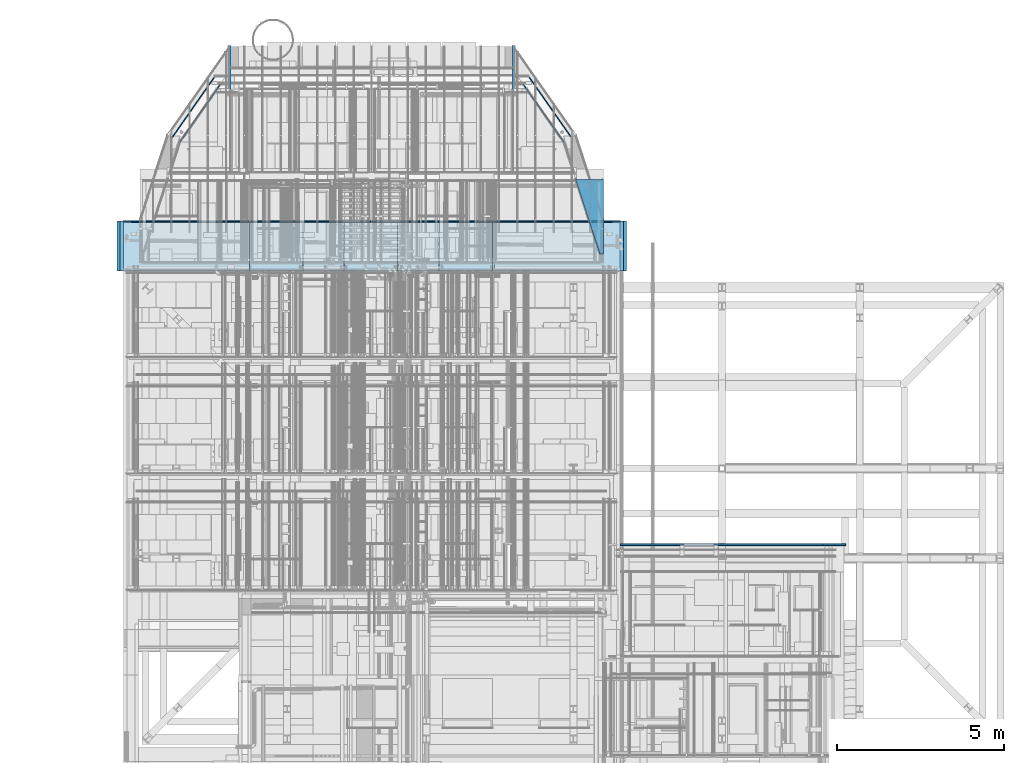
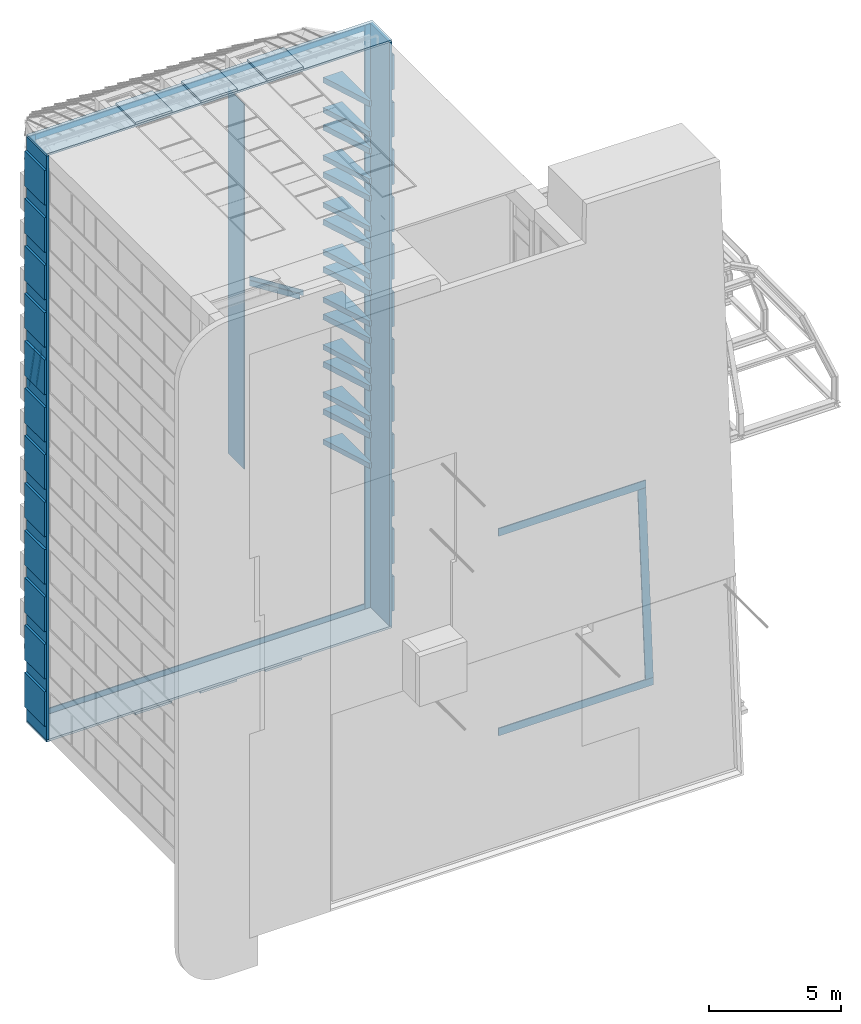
# One storey, part 34 of 583: 47 roofs, 16 walls.
"""IFC2X3 building model written with IfcOpenShell, lengths in metres."""

from ifc_helpers import new_model, entity, si_unit, converted_unit, derived_unit, money_unit, direction, frame, frame_2d, origin_with_axes, place, context, subcontext, project, spatial, rectangle, extrude, faceted_brep, material, type_object, element, save


model = new_model("IFC2X3")

# Units and contexts
model_context = context("Model", 3, precision=1e-05, world=origin_with_axes(), true_north=direction((0.0, 1.0)))
body_context = subcontext(model_context, "Body", "Model", "MODEL_VIEW", scale=1.0)
ifc_project = project(units=[si_unit("LENGTHUNIT", "METRE"), si_unit("AREAUNIT", "SQUARE_METRE"), si_unit("VOLUMEUNIT", "CUBIC_METRE"), si_unit("ABSORBEDDOSEUNIT", "GRAY"), si_unit("AMOUNTOFSUBSTANCEUNIT", "MOLE"), si_unit("DOSEEQUIVALENTUNIT", "SIEVERT"), si_unit("ELECTRICCAPACITANCEUNIT", "FARAD"), si_unit("ELECTRICCHARGEUNIT", "COULOMB"), si_unit("ELECTRICCONDUCTANCEUNIT", "SIEMENS"), si_unit("ELECTRICCURRENTUNIT", "AMPERE"), si_unit("ELECTRICRESISTANCEUNIT", "OHM"), si_unit("ELECTRICVOLTAGEUNIT", "VOLT"), si_unit("ENERGYUNIT", "JOULE"), si_unit("FORCEUNIT", "NEWTON"), si_unit("FREQUENCYUNIT", "HERTZ"), si_unit("ILLUMINANCEUNIT", "LUX"), si_unit("INDUCTANCEUNIT", "HENRY"), si_unit("LUMINOUSFLUXUNIT", "LUMEN"), si_unit("LUMINOUSINTENSITYUNIT", "CANDELA"), si_unit("MAGNETICFLUXDENSITYUNIT", "TESLA"), si_unit("MAGNETICFLUXUNIT", "WEBER"), si_unit("MASSUNIT", "GRAM"), converted_unit("PLANEANGLEUNIT", "degree", entity("IfcReal", 0.0174532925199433), si_unit("PLANEANGLEUNIT", "RADIAN"), dimensions=[0, 0, 0, 0, 0, 0, 0]), si_unit("POWERUNIT", "WATT"), si_unit("PRESSUREUNIT", "PASCAL"), si_unit("RADIOACTIVITYUNIT", "BECQUEREL"), si_unit("SOLIDANGLEUNIT", "STERADIAN"), si_unit("THERMODYNAMICTEMPERATUREUNIT", "KELVIN"), si_unit("TIMEUNIT", "SECOND"), derived_unit("ACCELERATIONUNIT", [(si_unit("LENGTHUNIT", "METRE"), 1), (si_unit("TIMEUNIT", "SECOND"), -2)]), derived_unit("ANGULARVELOCITYUNIT", [(converted_unit("PLANEANGLEUNIT", "degree", entity("IfcReal", 0.0174532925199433), si_unit("PLANEANGLEUNIT", "RADIAN"), dimensions=[0, 0, 0, 0, 0, 0, 0]), 1), (si_unit("TIMEUNIT", "SECOND"), -1)]), derived_unit("CURVATUREUNIT", [(converted_unit("PLANEANGLEUNIT", "degree", entity("IfcReal", 0.0174532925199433), si_unit("PLANEANGLEUNIT", "RADIAN"), dimensions=[0, 0, 0, 0, 0, 0, 0]), 1), (si_unit("LENGTHUNIT", "METRE"), -1)]), derived_unit("DYNAMICVISCOSITYUNIT", [(si_unit("PRESSUREUNIT", "PASCAL"), 1), (si_unit("TIMEUNIT", "SECOND"), 1)]), derived_unit("HEATFLUXDENSITYUNIT", [(si_unit("POWERUNIT", "WATT"), 1), (si_unit("LENGTHUNIT", "METRE"), -2)]), derived_unit("HEATINGVALUEUNIT", [(si_unit("ENERGYUNIT", "JOULE"), 1), (si_unit("MASSUNIT", "GRAM"), -1)]), derived_unit("INTEGERCOUNTRATEUNIT", [(si_unit("TIMEUNIT", "SECOND"), -1)]), derived_unit("IONCONCENTRATIONUNIT", [(si_unit("MASSUNIT", "GRAM"), 1), (si_unit("VOLUMEUNIT", "CUBIC_METRE"), -1)]), derived_unit("ISOTHERMALMOISTURECAPACITYUNIT", [(si_unit("VOLUMEUNIT", "CUBIC_METRE"), 1), (si_unit("MASSUNIT", "GRAM"), -1)]), derived_unit("KINEMATICVISCOSITYUNIT", [(si_unit("AREAUNIT", "SQUARE_METRE"), 1), (si_unit("TIMEUNIT", "SECOND"), -1)]), derived_unit("LINEARFORCEUNIT", [(si_unit("FORCEUNIT", "NEWTON"), 1), (si_unit("LENGTHUNIT", "METRE"), -1)]), derived_unit("LINEARMOMENTUNIT", [(si_unit("FORCEUNIT", "NEWTON"), 1), (si_unit("LENGTHUNIT", "METRE"), -1)]), derived_unit("LINEARSTIFFNESSUNIT", [(si_unit("FORCEUNIT", "NEWTON"), 1), (si_unit("LENGTHUNIT", "METRE"), -1)]), derived_unit("LINEARVELOCITYUNIT", [(si_unit("LENGTHUNIT", "METRE"), 1), (si_unit("TIMEUNIT", "SECOND"), -1)]), derived_unit("LUMINOUSINTENSITYDISTRIBUTIONUNIT", [(si_unit("LUMINOUSINTENSITYUNIT", "CANDELA"), 1), (si_unit("LUMINOUSFLUXUNIT", "LUMEN"), -1)]), derived_unit("MASSDENSITYUNIT", [(si_unit("MASSUNIT", "GRAM"), 1), (si_unit("VOLUMEUNIT", "CUBIC_METRE"), -1)]), derived_unit("MASSFLOWRATEUNIT", [(si_unit("MASSUNIT", "GRAM"), 1), (si_unit("TIMEUNIT", "SECOND"), -1)]), derived_unit("MASSPERLENGTHUNIT", [(si_unit("MASSUNIT", "GRAM"), 1), (si_unit("LENGTHUNIT", "METRE"), -1)]), derived_unit("MODULUSOFELASTICITYUNIT", [(si_unit("FORCEUNIT", "NEWTON"), 1), (si_unit("AREAUNIT", "SQUARE_METRE"), -1)]), derived_unit("MODULUSOFLINEARSUBGRADEREACTIONUNIT", [(si_unit("FORCEUNIT", "NEWTON"), 1), (si_unit("LENGTHUNIT", "METRE"), -2)]), derived_unit("MODULUSOFROTATIONALSUBGRADEREACTIONUNIT", [(si_unit("FORCEUNIT", "NEWTON"), 1), (si_unit("LENGTHUNIT", "METRE"), 1)]), derived_unit("MODULUSOFSUBGRADEREACTIONUNIT", [(si_unit("FORCEUNIT", "NEWTON"), 1), (si_unit("VOLUMEUNIT", "CUBIC_METRE"), -1)]), derived_unit("MOISTUREDIFFUSIVITYUNIT", [(si_unit("VOLUMEUNIT", "CUBIC_METRE"), 1), (si_unit("TIMEUNIT", "SECOND"), -1)]), derived_unit("MOLECULARWEIGHTUNIT", [(si_unit("MASSUNIT", "GRAM"), 1), (si_unit("AMOUNTOFSUBSTANCEUNIT", "MOLE"), -1)]), derived_unit("PLANARFORCEUNIT", [(si_unit("FORCEUNIT", "NEWTON"), 1), (si_unit("LENGTHUNIT", "METRE"), -2)]), derived_unit("ROTATIONALFREQUENCYUNIT", [(si_unit("TIMEUNIT", "SECOND"), -1)]), derived_unit("ROTATIONALMASSUNIT", [(si_unit("MASSUNIT", "GRAM"), 1), (si_unit("LENGTHUNIT", "METRE"), 2)]), derived_unit("ROTATIONALSTIFFNESSUNIT", [(si_unit("FORCEUNIT", "NEWTON"), 1), (si_unit("LENGTHUNIT", "METRE"), 1), (converted_unit("PLANEANGLEUNIT", "degree", entity("IfcReal", 0.0174532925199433), si_unit("PLANEANGLEUNIT", "RADIAN"), dimensions=[0, 0, 0, 0, 0, 0, 0]), -1)]), derived_unit("SECTIONAREAINTEGRALUNIT", [(si_unit("LENGTHUNIT", "METRE"), 5)]), derived_unit("SECTIONMODULUSUNIT", [(si_unit("LENGTHUNIT", "METRE"), 3)]), derived_unit("SHEARMODULUSUNIT", [(si_unit("FORCEUNIT", "NEWTON"), 1), (si_unit("AREAUNIT", "SQUARE_METRE"), -1)]), derived_unit("SOUNDPOWERUNIT", [(si_unit("ENERGYUNIT", "JOULE"), 1), (si_unit("TIMEUNIT", "SECOND"), -1)]), derived_unit("SPECIFICHEATCAPACITYUNIT", [(si_unit("FORCEUNIT", "NEWTON"), 1), (si_unit("MASSUNIT", "GRAM"), -1), (si_unit("THERMODYNAMICTEMPERATUREUNIT", "KELVIN"), -1)]), derived_unit("TEMPERATUREGRADIENTUNIT", [(si_unit("THERMODYNAMICTEMPERATUREUNIT", "KELVIN"), 1), (si_unit("LENGTHUNIT", "METRE"), -1)]), derived_unit("THERMALADMITTANCEUNIT", [(si_unit("POWERUNIT", "WATT"), 1), (si_unit("AREAUNIT", "SQUARE_METRE"), -1), (si_unit("THERMODYNAMICTEMPERATUREUNIT", "KELVIN"), -1)]), derived_unit("THERMALCONDUCTANCEUNIT", [(si_unit("POWERUNIT", "WATT"), 1), (si_unit("LENGTHUNIT", "METRE"), -1), (si_unit("THERMODYNAMICTEMPERATUREUNIT", "KELVIN"), -1)]), derived_unit("THERMALEXPANSIONCOEFFICIENTUNIT", [(si_unit("THERMODYNAMICTEMPERATUREUNIT", "KELVIN"), -1)]), derived_unit("THERMALRESISTANCEUNIT", [(si_unit("AREAUNIT", "SQUARE_METRE"), 1), (si_unit("POWERUNIT", "WATT"), -1)]), derived_unit("THERMALTRANSMITTANCEUNIT", [(si_unit("POWERUNIT", "WATT"), 1), (si_unit("AREAUNIT", "SQUARE_METRE"), -1), (si_unit("THERMODYNAMICTEMPERATUREUNIT", "KELVIN"), -1)]), derived_unit("TORQUEUNIT", [(si_unit("FORCEUNIT", "NEWTON"), 1), (si_unit("LENGTHUNIT", "METRE"), 1)]), derived_unit("VAPORPERMEABILITYUNIT", [(si_unit("MASSUNIT", "GRAM"), 1), (si_unit("TIMEUNIT", "SECOND"), -1)]), derived_unit("VOLUMETRICFLOWRATEUNIT", [(si_unit("VOLUMEUNIT", "CUBIC_METRE"), 1), (si_unit("TIMEUNIT", "SECOND"), -1)]), derived_unit("WARPINGCONSTANTUNIT", [(si_unit("LENGTHUNIT", "METRE"), 6)]), derived_unit("WARPINGMOMENTUNIT", [(si_unit("FORCEUNIT", "NEWTON"), 1), (si_unit("LENGTHUNIT", "METRE"), 2)]), money_unit("GBP")], contexts=[model_context])

# Site, building, storey
site_placement = place(None, origin_with_axes())
site = spatial("IfcSite", under=ifc_project, at=site_placement, Name="Site", CompositionType="ELEMENT")
building_placement = place(site_placement, origin_with_axes())
building = spatial("IfcBuilding", under=site, at=building_placement, Name="Building01", CompositionType="ELEMENT")
storey_placement = place(building_placement, frame((0.0, 0.0, 20.78), z_axis=(0.0, 0.0, 1.0), x_axis=(1.0, 0.0, 0.0)))
storey = spatial("IfcBuildingStorey", under=building, at=storey_placement, Name="RL", CompositionType="ELEMENT", Elevation=20.78)

# Walls
ifc_material = material(Name="A_BSUK_Roofs")
wall_type = type_object("IfcWallType", Name="A-Walls-ExternalBlock", PredefinedType="NOTDEFINED")
wall_1_placement = place(storey_placement, frame((14.400061, 15.23, -13.329976), z_axis=(0.0, 1.0, 0.0), x_axis=(-1.0, 0.0, 0.0)))
element("IfcWall", 1, at=wall_1_placement, inside=storey, type_object=wall_type, material=ifc_material, Name="7C", ObjectType="A-Walls-ExternalBlock", context=body_context, shape_type="Brep", body=[
    faceted_brep([(0.094632, -0.25, 0.0), (0.110404, 0.0, 0.0), (0.841474, 0.0, 2.25), (0.825702, -0.25, 2.25), (0.0, -0.25, 0.0), (0.0, 0.0, 0.0), (0.0, -0.25, 2.25), (0.0, 0.0, 2.25)], [[[0, 1, 2, 3]], [[1, 0, 4, 5]], [[0, 3, 6, 4]], [[2, 1, 5, 7]], [[3, 2, 7, 6]], [[5, 4, 6, 7]]]),
])
wall_2_placement = place(storey_placement, frame((14.400061, 15.23, -11.930024), z_axis=(0.0, 1.0, 0.0), x_axis=(-1.0, 0.0, 0.0)))
element("IfcWall", 2, at=wall_2_placement, inside=storey, type_object=wall_type, material=ifc_material, Name="7C", ObjectType="A-Walls-ExternalBlock", context=body_context, shape_type="Brep", body=[
    faceted_brep([(0.110404, -0.25, 0.0), (0.094632, 0.0, 0.0), (0.825702, 0.0, 2.25), (0.841474, -0.25, 2.25), (0.0, -0.25, 0.0), (0.0, 0.0, 0.0), (0.0, -0.25, 2.25), (0.0, 0.0, 2.25)], [[[0, 1, 2, 3]], [[1, 0, 4, 5]], [[0, 3, 6, 4]], [[2, 1, 5, 7]], [[3, 2, 7, 6]], [[5, 4, 6, 7]]]),
])
wall_3_placement = place(storey_placement, frame((14.400061, 15.23, -11.139976), z_axis=(0.0, 1.0, 0.0), x_axis=(-1.0, 0.0, 0.0)))
element("IfcWall", 3, at=wall_3_placement, inside=storey, type_object=wall_type, material=ifc_material, Name="7C", ObjectType="A-Walls-ExternalBlock", context=body_context, shape_type="Brep", body=[
    faceted_brep([(0.094632, -0.25, 0.0), (0.110404, 0.0, 0.0), (0.841474, 0.0, 2.25), (0.825702, -0.25, 2.25), (0.0, -0.25, 0.0), (0.0, 0.0, 0.0), (0.0, -0.25, 2.25), (0.0, 0.0, 2.25)], [[[0, 1, 2, 3]], [[1, 0, 4, 5]], [[0, 3, 6, 4]], [[2, 1, 5, 7]], [[3, 2, 7, 6]], [[5, 4, 6, 7]]]),
])
wall_4_placement = place(storey_placement, frame((14.400061, 15.23, -9.740024), z_axis=(0.0, 1.0, 0.0), x_axis=(-1.0, 0.0, 0.0)))
element("IfcWall", 4, at=wall_4_placement, inside=storey, type_object=wall_type, material=ifc_material, Name="7C", ObjectType="A-Walls-ExternalBlock", context=body_context, shape_type="Brep", body=[
    faceted_brep([(0.110404, -0.25, 0.0), (0.094632, 0.0, 0.0), (0.825702, 0.0, 2.25), (0.841474, -0.25, 2.25), (0.0, -0.25, 0.0), (0.0, 0.0, 0.0), (0.0, -0.25, 2.25), (0.0, 0.0, 2.25)], [[[0, 1, 2, 3]], [[1, 0, 4, 5]], [[0, 3, 6, 4]], [[2, 1, 5, 7]], [[3, 2, 7, 6]], [[5, 4, 6, 7]]]),
])
wall_5_placement = place(storey_placement, frame((14.400061, 15.23, -8.949976), z_axis=(0.0, 1.0, 0.0), x_axis=(-1.0, 0.0, 0.0)))
element("IfcWall", 5, at=wall_5_placement, inside=storey, type_object=wall_type, material=ifc_material, Name="7C", ObjectType="A-Walls-ExternalBlock", context=body_context, shape_type="Brep", body=[
    faceted_brep([(0.094632, -0.25, 0.0), (0.110404, 0.0, 0.0), (0.841474, 0.0, 2.25), (0.825702, -0.25, 2.25), (0.0, -0.25, 0.0), (0.0, 0.0, 0.0), (0.0, -0.25, 2.25), (0.0, 0.0, 2.25)], [[[0, 1, 2, 3]], [[1, 0, 4, 5]], [[0, 3, 6, 4]], [[2, 1, 5, 7]], [[3, 2, 7, 6]], [[5, 4, 6, 7]]]),
])
wall_6_placement = place(storey_placement, frame((14.400061, 15.23, -7.550024), z_axis=(0.0, 1.0, 0.0), x_axis=(-1.0, 0.0, 0.0)))
element("IfcWall", 6, at=wall_6_placement, inside=storey, type_object=wall_type, material=ifc_material, Name="7C", ObjectType="A-Walls-ExternalBlock", context=body_context, shape_type="Brep", body=[
    faceted_brep([(0.110404, -0.25, 0.0), (0.094632, 0.0, 0.0), (0.825702, 0.0, 2.25), (0.841474, -0.25, 2.25), (0.0, -0.25, 0.0), (0.0, 0.0, 0.0), (0.0, -0.25, 2.25), (0.0, 0.0, 2.25)], [[[0, 1, 2, 3]], [[1, 0, 4, 5]], [[0, 3, 6, 4]], [[2, 1, 5, 7]], [[3, 2, 7, 6]], [[5, 4, 6, 7]]]),
])
wall_7_placement = place(storey_placement, frame((14.400061, 15.23, -6.759976), z_axis=(0.0, 1.0, 0.0), x_axis=(-1.0, 0.0, 0.0)))
element("IfcWall", 7, at=wall_7_placement, inside=storey, type_object=wall_type, material=ifc_material, Name="7C", ObjectType="A-Walls-ExternalBlock", context=body_context, shape_type="Brep", body=[
    faceted_brep([(0.094632, -0.25, 0.0), (0.110404, 0.0, 0.0), (0.841474, 0.0, 2.25), (0.825702, -0.25, 2.25), (0.0, -0.25, 0.0), (0.0, 0.0, 0.0), (0.0, -0.25, 2.25), (0.0, 0.0, 2.25)], [[[0, 1, 2, 3]], [[1, 0, 4, 5]], [[0, 3, 6, 4]], [[2, 1, 5, 7]], [[3, 2, 7, 6]], [[5, 4, 6, 7]]]),
])
wall_8_placement = place(storey_placement, frame((14.400061, 15.23, -5.360024), z_axis=(0.0, 1.0, 0.0), x_axis=(-1.0, 0.0, 0.0)))
element("IfcWall", 8, at=wall_8_placement, inside=storey, type_object=wall_type, material=ifc_material, Name="7C", ObjectType="A-Walls-ExternalBlock", context=body_context, shape_type="Brep", body=[
    faceted_brep([(0.110404, -0.25, 0.0), (0.094632, 0.0, 0.0), (0.825702, 0.0, 2.25), (0.841474, -0.25, 2.25), (0.0, -0.25, 0.0), (0.0, 0.0, 0.0), (0.0, -0.25, 2.25), (0.0, 0.0, 2.25)], [[[0, 1, 2, 3]], [[1, 0, 4, 5]], [[0, 3, 6, 4]], [[2, 1, 5, 7]], [[3, 2, 7, 6]], [[5, 4, 6, 7]]]),
])
wall_9_placement = place(storey_placement, frame((14.400061, 15.23, -4.569976), z_axis=(0.0, 1.0, 0.0), x_axis=(-1.0, 0.0, 0.0)))
element("IfcWall", 9, at=wall_9_placement, inside=storey, type_object=wall_type, material=ifc_material, Name="7C", ObjectType="A-Walls-ExternalBlock", context=body_context, shape_type="Brep", body=[
    faceted_brep([(0.094632, -0.25, 0.0), (0.110404, 0.0, 0.0), (0.841474, 0.0, 2.25), (0.825702, -0.25, 2.25), (0.0, -0.25, 0.0), (0.0, 0.0, 0.0), (0.0, -0.25, 2.25), (0.0, 0.0, 2.25)], [[[0, 1, 2, 3]], [[1, 0, 4, 5]], [[0, 3, 6, 4]], [[2, 1, 5, 7]], [[3, 2, 7, 6]], [[5, 4, 6, 7]]]),
])
wall_10_placement = place(storey_placement, frame((14.400061, 15.23, -3.170024), z_axis=(0.0, 1.0, 0.0), x_axis=(-1.0, 0.0, 0.0)))
element("IfcWall", 10, at=wall_10_placement, inside=storey, type_object=wall_type, material=ifc_material, Name="7C", ObjectType="A-Walls-ExternalBlock", context=body_context, shape_type="Brep", body=[
    faceted_brep([(0.110404, -0.25, 0.0), (0.094632, 0.0, 0.0), (0.825702, 0.0, 2.25), (0.841474, -0.25, 2.25), (0.0, -0.25, 0.0), (0.0, 0.0, 0.0), (0.0, -0.25, 2.25), (0.0, 0.0, 2.25)], [[[0, 1, 2, 3]], [[1, 0, 4, 5]], [[0, 3, 6, 4]], [[2, 1, 5, 7]], [[3, 2, 7, 6]], [[5, 4, 6, 7]]]),
])
wall_11_placement = place(storey_placement, frame((14.400061, 15.23, -2.379976), z_axis=(0.0, 1.0, 0.0), x_axis=(-1.0, 0.0, 0.0)))
element("IfcWall", 11, at=wall_11_placement, inside=storey, type_object=wall_type, material=ifc_material, Name="7C", ObjectType="A-Walls-ExternalBlock", context=body_context, shape_type="Brep", body=[
    faceted_brep([(0.094632, -0.25, 0.0), (0.110404, 0.0, 0.0), (0.841474, 0.0, 2.25), (0.825702, -0.25, 2.25), (0.0, -0.25, 0.0), (0.0, 0.0, 0.0), (0.0, -0.25, 2.25), (0.0, 0.0, 2.25)], [[[0, 1, 2, 3]], [[1, 0, 4, 5]], [[0, 3, 6, 4]], [[2, 1, 5, 7]], [[3, 2, 7, 6]], [[5, 4, 6, 7]]]),
])
wall_12_placement = place(storey_placement, frame((14.400061, 15.23, -0.980024), z_axis=(0.0, 1.0, 0.0), x_axis=(-1.0, 0.0, 0.0)))
element("IfcWall", 12, at=wall_12_placement, inside=storey, type_object=wall_type, material=ifc_material, Name="7C", ObjectType="A-Walls-ExternalBlock", context=body_context, shape_type="Brep", body=[
    faceted_brep([(0.110404, -0.25, 0.0), (0.094632, 0.0, 0.0), (0.825702, 0.0, 2.25), (0.841474, -0.25, 2.25), (0.0, -0.25, 0.0), (0.0, 0.0, 0.0), (0.0, -0.25, 2.25), (0.0, 0.0, 2.25)], [[[0, 1, 2, 3]], [[1, 0, 4, 5]], [[0, 3, 6, 4]], [[2, 1, 5, 7]], [[3, 2, 7, 6]], [[5, 4, 6, 7]]]),
])
wall_13_placement = place(storey_placement, frame((14.400061, 15.23, -0.189976), z_axis=(0.0, 1.0, 0.0), x_axis=(-1.0, 0.0, 0.0)))
element("IfcWall", 13, at=wall_13_placement, inside=storey, type_object=wall_type, material=ifc_material, Name="7C", ObjectType="A-Walls-ExternalBlock", context=body_context, shape_type="Brep", body=[
    faceted_brep([(0.094632, -0.25, 0.0), (0.110404, 0.0, 0.0), (0.841474, 0.0, 2.25), (0.825702, -0.25, 2.25), (0.0, -0.25, 0.0), (0.0, 0.0, 0.0), (0.0, -0.25, 2.25), (0.0, 0.0, 2.25)], [[[0, 1, 2, 3]], [[1, 0, 4, 5]], [[0, 3, 6, 4]], [[2, 1, 5, 7]], [[3, 2, 7, 6]], [[5, 4, 6, 7]]]),
])
wall_14_placement = place(storey_placement, frame((14.400061, 15.23, 1.209976), z_axis=(0.0, 1.0, 0.0), x_axis=(-1.0, 0.0, 0.0)))
element("IfcWall", 14, at=wall_14_placement, inside=storey, type_object=wall_type, material=ifc_material, Name="7C", ObjectType="A-Walls-ExternalBlock", context=body_context, shape_type="Brep", body=[
    faceted_brep([(0.110404, -0.25, 0.0), (0.094632, 0.0, 0.0), (0.825702, 0.0, 2.25), (0.841474, -0.25, 2.25), (0.0, -0.25, 0.0), (0.0, 0.0, 0.0), (0.0, -0.25, 2.25), (0.0, 0.0, 2.25)], [[[0, 1, 2, 3]], [[1, 0, 4, 5]], [[0, 3, 6, 4]], [[2, 1, 5, 7]], [[3, 2, 7, 6]], [[5, 4, 6, 7]]]),
])
wall_15_placement = place(storey_placement, frame((14.400061, 15.23, 2.000024), z_axis=(0.0, 1.0, 0.0), x_axis=(-1.0, 0.0, 0.0)))
element("IfcWall", 15, at=wall_15_placement, inside=storey, type_object=wall_type, material=ifc_material, Name="7C", ObjectType="A-Walls-ExternalBlock", context=body_context, shape_type="Brep", body=[
    faceted_brep([(0.094632, -0.25, 0.0), (0.110404, 0.0, 0.0), (0.841474, 0.0, 2.25), (0.825702, -0.25, 2.25), (0.0, -0.25, 0.0), (0.0, 0.0, 0.0), (0.0, -0.25, 2.25), (0.0, 0.0, 2.25)], [[[0, 1, 2, 3]], [[1, 0, 4, 5]], [[0, 3, 6, 4]], [[2, 1, 5, 7]], [[3, 2, 7, 6]], [[5, 4, 6, 7]]]),
])
wall_16_placement = place(storey_placement, frame((14.400061, 15.23, 3.399976), z_axis=(0.0, 1.0, 0.0), x_axis=(-1.0, 0.0, 0.0)))
element("IfcWall", 16, at=wall_16_placement, inside=storey, type_object=wall_type, material=ifc_material, Name="7C", ObjectType="A-Walls-ExternalBlock", context=body_context, shape_type="Brep", body=[
    faceted_brep([(0.110404, -0.25, 0.0), (0.094632, 0.0, 0.0), (0.825702, 0.0, 2.25), (0.841474, -0.25, 2.25), (0.0, -0.25, 0.0), (0.0, 0.0, 0.0), (0.0, -0.25, 2.25), (0.0, 0.0, 2.25)], [[[0, 1, 2, 3]], [[1, 0, 4, 5]], [[0, 3, 6, 4]], [[2, 1, 5, 7]], [[3, 2, 7, 6]], [[5, 4, 6, 7]]]),
])

# Roofs
roof_1_placement = place(storey_placement, frame((14.9, 6.485, -20.842), z_axis=(0.0, 0.0, 1.0), x_axis=(1.0, 0.0, 0.0)))
element("IfcRoof", 17, at=roof_1_placement, inside=storey, material=ifc_material, Name="A-ZeeProfile01", ObjectType="A-ZeeProfile01", ShapeType="FREEFORM", context=body_context, shape_type="SweptSolid", body=[
    extrude(rectangle(XDim=6.7669, YDim=0.05, at=frame_2d((3.38345, 0.025), x_axis=(1.0, 0.0))), origin_with_axes(), (0.0, 0.0, 1.0), 0.35),
])
roof_2_placement = place(storey_placement, frame((21.6669, 6.485, -20.492), z_axis=(-0.99931262, 0.0, -0.03707143), x_axis=(-0.03707143, 0.0, 0.99931262)))
element("IfcRoof", 18, at=roof_2_placement, inside=storey, material=ifc_material, Name="A-ZeeProfile01", ObjectType="A-ZeeProfile01", ShapeType="FREEFORM", context=body_context, shape_type="SweptSolid", body=[
    extrude(rectangle(XDim=8.887352, YDim=0.05, at=frame_2d((4.443676, 0.025), x_axis=(1.0, 0.0))), origin_with_axes(), (0.0, 0.0, 1.0), 0.35),
])
roof_3_placement = place(storey_placement, frame((14.9, 6.535, -11.274099), z_axis=(0.0, 0.0, -1.0), x_axis=(1.0, 0.0, 0.0)))
element("IfcRoof", 19, at=roof_3_placement, inside=storey, material=ifc_material, Name="A-ZeeProfile01", ObjectType="A-ZeeProfile01", ShapeType="FREEFORM", context=body_context, shape_type="SweptSolid", body=[
    extrude(rectangle(XDim=6.437433, YDim=0.05, at=frame_2d((3.218716, 0.025), x_axis=(1.0, 0.0))), origin_with_axes(), (0.0, 0.0, 1.0), 0.35),
])
roof_4_placement = place(storey_placement, frame((1.451056, 18.735396, -7.40955), z_axis=(0.57357644, 0.81915204, 0.0), x_axis=(0.0, 0.0, 1.0)))
element("IfcRoof", 20, at=roof_4_placement, inside=storey, material=ifc_material, Name="A-ZeeProfile01", ObjectType="A-ZeeProfile01", ShapeType="FREEFORM", context=body_context, shape_type="SweptSolid", body=[
    extrude(rectangle(XDim=0.2591, YDim=0.025, at=frame_2d((0.12955, 0.0125), x_axis=(1.0, 0.0))), origin_with_axes(), (0.0, 0.0, 1.0), 2.248173),
])
roof_5_placement = place(storey_placement, frame((1.683023, 18.602017, -7.40955), z_axis=(0.57357644, 0.81915204, 0.0), x_axis=(0.0, 0.0, 1.0)))
element("IfcRoof", 21, at=roof_5_placement, inside=storey, material=ifc_material, Name="A-ZeeProfile01", ObjectType="A-ZeeProfile01", ShapeType="FREEFORM", context=body_context, shape_type="SweptSolid", body=[
    extrude(rectangle(XDim=0.2591, YDim=0.025, at=frame_2d((0.12955, 0.0125), x_axis=(1.0, 0.0))), origin_with_axes(), (0.0, 0.0, 1.0), 2.109223),
])
roof_6_placement = place(storey_placement, frame((13.448944, 18.735396, -7.40955), z_axis=(-0.57357644, 0.81915204, 0.0), x_axis=(0.0, 0.0, -1.0)))
element("IfcRoof", 22, at=roof_6_placement, inside=storey, material=ifc_material, Name="A-ZeeProfile01", ObjectType="A-ZeeProfile01", ShapeType="FREEFORM", context=body_context, shape_type="SweptSolid", body=[
    extrude(rectangle(XDim=0.2591, YDim=0.025, at=frame_2d((-0.12955, 0.0125), x_axis=(-1.0, 0.0))), origin_with_axes(), (0.0, 0.0, 1.0), 2.248173),
])
roof_7_placement = place(storey_placement, frame((13.216977, 18.602017, -7.40955), z_axis=(-0.57357644, 0.81915204, 0.0), x_axis=(0.0, 0.0, -1.0)))
element("IfcRoof", 23, at=roof_7_placement, inside=storey, material=ifc_material, Name="A-ZeeProfile01", ObjectType="A-ZeeProfile01", ShapeType="FREEFORM", context=body_context, shape_type="SweptSolid", body=[
    extrude(rectangle(XDim=0.2591, YDim=0.025, at=frame_2d((-0.12955, 0.0125), x_axis=(-1.0, 0.0))), origin_with_axes(), (0.0, 0.0, 1.0), 2.109223),
])
for number, where, z_axis, x_axis in (
    (24, (3.174939, 20.205, -15.719976), (0.0, 1.0, 0.0), (0.0, 0.0, 1.0)),
    (25, (11.699939, 20.205, -15.719976), (0.0, 1.0, 0.0), (0.0, 0.0, 1.0)),
):
    element("IfcRoof", number, at=place(storey_placement, frame(where, z_axis=z_axis, x_axis=x_axis)), inside=storey, material=ifc_material, Name="A-ZeeProfile01", ObjectType="A-ZeeProfile01", ShapeType="FREEFORM", context=body_context, shape_type="SweptSolid", body=[
        extrude(rectangle(XDim=16.879951, YDim=0.025, at=frame_2d((8.439976, 0.0125), x_axis=(1.0, 0.0))), origin_with_axes(), (0.0, 0.0, 1.0), 1.239928),
    ])
roof_8_placement = place(storey_placement, frame((-0.1, 14.73, -20.78), z_axis=(0.0, 1.0, 0.0), x_axis=(0.0, 0.0, 1.0)))
element("IfcRoof", 26, at=roof_8_placement, inside=storey, material=ifc_material, Name="A-ZeeProfile01", ObjectType="A-ZeeProfile01", ShapeType="FREEFORM", context=body_context, shape_type="SweptSolid", body=[
    extrude(rectangle(XDim=26.98, YDim=0.1, at=frame_2d((13.49, 0.05), x_axis=(1.0, 0.0))), origin_with_axes(), (0.0, 0.0, 1.0), 1.5),
])
for number, where, z_axis, x_axis in (
    (27, (-0.1, 14.73, 6.3), (0.0, 1.0, 0.0), (1.0, 0.0, 0.0)),
    (28, (15.0, 14.73, -20.88), (0.0, 1.0, 0.0), (-1.0, 0.0, 0.0)),
):
    element("IfcRoof", number, at=place(storey_placement, frame(where, z_axis=z_axis, x_axis=x_axis)), inside=storey, material=ifc_material, Name="A-ZeeProfile01", ObjectType="A-ZeeProfile01", ShapeType="FREEFORM", context=body_context, shape_type="SweptSolid", body=[
        extrude(rectangle(XDim=15.1, YDim=0.1, at=frame_2d((7.55, 0.05), x_axis=(1.0, 0.0))), origin_with_axes(), (0.0, 0.0, 1.0), 1.5),
    ])
roof_9_placement = place(storey_placement, frame((-0.2, 14.73, -20.12), z_axis=(0.0, 1.0, 0.0), x_axis=(0.0, 0.0, 1.0)))
element("IfcRoof", 29, at=roof_9_placement, inside=storey, material=ifc_material, Name="A-ZeeProfile01", ObjectType="A-ZeeProfile01", ShapeType="FREEFORM", context=body_context, shape_type="SweptSolid", body=[
    extrude(rectangle(XDim=1.6, YDim=0.1, at=frame_2d((0.8, 0.05), x_axis=(1.0, 0.0))), origin_with_axes(), (0.0, 0.0, 1.0), 1.5),
])
roof_10_placement = place(storey_placement, frame((14.9, 14.73, -20.78), z_axis=(0.0, 1.0, 0.0), x_axis=(0.0, 0.0, 1.0)))
element("IfcRoof", 30, at=roof_10_placement, inside=storey, material=ifc_material, Name="A-ZeeProfile01", ObjectType="A-ZeeProfile01", ShapeType="FREEFORM", context=body_context, shape_type="SweptSolid", body=[
    extrude(rectangle(XDim=26.98, YDim=0.1, at=frame_2d((13.49, 0.05), x_axis=(1.0, 0.0))), origin_with_axes(), (0.0, 0.0, 1.0), 1.5),
])
roof_11_placement = place(storey_placement, frame((0.25, 16.18, -20.78), z_axis=(-1.0, 0.0, 0.0), x_axis=(0.0, 0.0, 1.0)))
element("IfcRoof", 31, at=roof_11_placement, inside=storey, material=ifc_material, Name="A-ZeeProfile01", ObjectType="A-ZeeProfile01", ShapeType="FREEFORM", context=body_context, shape_type="SweptSolid", body=[
    extrude(rectangle(XDim=26.98, YDim=0.05, at=frame_2d((13.49, 0.025), x_axis=(1.0, 0.0))), origin_with_axes(), (0.0, 0.0, 1.0), 0.25),
])
for number, where, z_axis, x_axis in (
    (32, (0.25, 16.18, -20.78), (0.0, 0.0, 1.0), (1.0, 0.0, 0.0)),
    (33, (0.25, 16.18, 5.95), (0.0, 0.0, 1.0), (1.0, 0.0, 0.0)),
):
    element("IfcRoof", number, at=place(storey_placement, frame(where, z_axis=z_axis, x_axis=x_axis)), inside=storey, material=ifc_material, Name="A-ZeeProfile01", ObjectType="A-ZeeProfile01", ShapeType="FREEFORM", context=body_context, shape_type="SweptSolid", body=[
        extrude(rectangle(XDim=14.4, YDim=0.05, at=frame_2d((7.2, 0.025), x_axis=(1.0, 0.0))), origin_with_axes(), (0.0, 0.0, 1.0), 0.25),
    ])
roof_12_placement = place(storey_placement, frame((14.9, 16.18, -20.78), z_axis=(-1.0, 0.0, 0.0), x_axis=(0.0, 0.0, 1.0)))
element("IfcRoof", 34, at=roof_12_placement, inside=storey, material=ifc_material, Name="A-ZeeProfile01", ObjectType="A-ZeeProfile01", ShapeType="FREEFORM", context=body_context, shape_type="SweptSolid", body=[
    extrude(rectangle(XDim=26.98, YDim=0.05, at=frame_2d((13.49, 0.025), x_axis=(1.0, 0.0))), origin_with_axes(), (0.0, 0.0, 1.0), 0.25),
])
for number, where, z_axis, x_axis in (
    (35, (5.38, 14.73, -20.98), (0.0, 1.0, 0.0), (-1.0, 0.0, 0.0)),
    (36, (8.22145, 14.73, -20.98), (0.0, 1.0, 0.0), (-1.0, 0.0, 0.0)),
    (37, (11.07145, 14.73, -20.98), (0.0, 1.0, 0.0), (-1.0, 0.0, 0.0)),
    (38, (5.385, 14.73, 6.3), (0.0, 1.0, 0.0), (-1.0, 0.0, 0.0)),
    (39, (8.25, 14.73, 6.3), (0.0, 1.0, 0.0), (-1.0, 0.0, 0.0)),
    (40, (11.135, 14.73, 6.3), (0.0, 1.0, 0.0), (-1.0, 0.0, 0.0)),
    (41, (-0.2, 14.73, -17.93), (0.0, 1.0, 0.0), (0.0, 0.0, 1.0)),
    (42, (-0.2, 14.73, -15.739523), (0.0, 1.0, 0.0), (0.0, 0.0, 1.0)),
    (43, (-0.2, 14.73, -13.549523), (0.0, 1.0, 0.0), (0.0, 0.0, 1.0)),
    (44, (-0.2, 14.73, -11.359523), (0.0, 1.0, 0.0), (0.0, 0.0, 1.0)),
    (45, (-0.2, 14.73, -9.169523), (0.0, 1.0, 0.0), (0.0, 0.0, 1.0)),
    (46, (-0.2, 14.73, -6.979523), (0.0, 1.0, 0.0), (0.0, 0.0, 1.0)),
    (47, (-0.2, 14.73, -4.789523), (0.0, 1.0, 0.0), (0.0, 0.0, 1.0)),
    (48, (-0.2, 14.73, -2.599523), (0.0, 1.0, 0.0), (0.0, 0.0, 1.0)),
    (49, (-0.2, 14.73, -0.409523), (0.0, 1.0, 0.0), (0.0, 0.0, 1.0)),
    (50, (-0.2, 14.73, 1.780477), (0.0, 1.0, 0.0), (0.0, 0.0, 1.0)),
    (51, (-0.2, 14.73, 3.970477), (0.0, 1.0, 0.0), (0.0, 0.0, 1.0)),
):
    element("IfcRoof", number, at=place(storey_placement, frame(where, z_axis=z_axis, x_axis=x_axis)), inside=storey, material=ifc_material, Name="A-ZeeProfile01", ObjectType="A-ZeeProfile01", ShapeType="FREEFORM", context=body_context, shape_type="SweptSolid", body=[
        extrude(rectangle(XDim=1.6, YDim=0.1, at=frame_2d((0.8, 0.05), x_axis=(1.0, 0.0))), origin_with_axes(), (0.0, 0.0, 1.0), 1.5),
    ])
for number, where, z_axis, x_axis in (
    (52, (15.1, 14.73, -20.12), (0.0, 1.0, 0.0), (0.0, 0.0, -1.0)),
    (53, (15.1, 14.73, -17.93), (0.0, 1.0, 0.0), (0.0, 0.0, -1.0)),
    (54, (15.1, 14.73, -15.739523), (0.0, 1.0, 0.0), (0.0, 0.0, -1.0)),
    (55, (15.1, 14.73, -13.549523), (0.0, 1.0, 0.0), (0.0, 0.0, -1.0)),
    (56, (15.1, 14.73, -11.359523), (0.0, 1.0, 0.0), (0.0, 0.0, -1.0)),
    (57, (15.1, 14.73, -9.169523), (0.0, 1.0, 0.0), (0.0, 0.0, -1.0)),
    (58, (15.1, 14.73, -6.979523), (0.0, 1.0, 0.0), (0.0, 0.0, -1.0)),
    (59, (15.1, 14.73, -4.789523), (0.0, 1.0, 0.0), (0.0, 0.0, -1.0)),
    (60, (15.1, 14.73, -2.599523), (0.0, 1.0, 0.0), (0.0, 0.0, -1.0)),
    (61, (15.1, 14.73, -0.409523), (0.0, 1.0, 0.0), (0.0, 0.0, -1.0)),
    (62, (15.1, 14.73, 1.780477), (0.0, 1.0, 0.0), (0.0, 0.0, -1.0)),
    (63, (15.1, 14.73, 3.970477), (0.0, 1.0, 0.0), (0.0, 0.0, -1.0)),
):
    element("IfcRoof", number, at=place(storey_placement, frame(where, z_axis=z_axis, x_axis=x_axis)), inside=storey, material=ifc_material, Name="A-ZeeProfile01", ObjectType="A-ZeeProfile01", ShapeType="FREEFORM", context=body_context, shape_type="SweptSolid", body=[
        extrude(rectangle(XDim=1.6, YDim=0.1, at=frame_2d((-0.8, 0.05), x_axis=(-1.0, 0.0))), origin_with_axes(), (0.0, 0.0, 1.0), 1.5),
    ])

save(model, "model.ifc")
